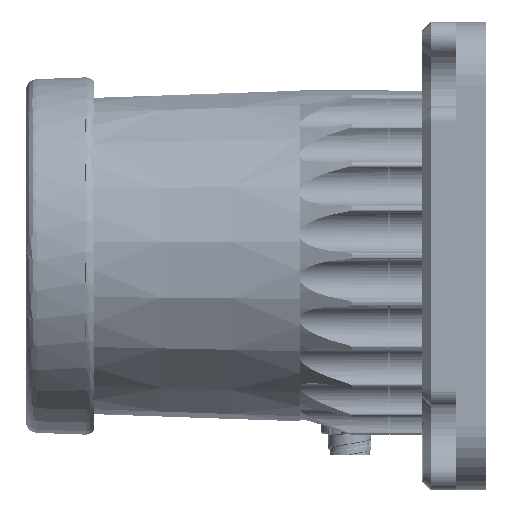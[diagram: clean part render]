
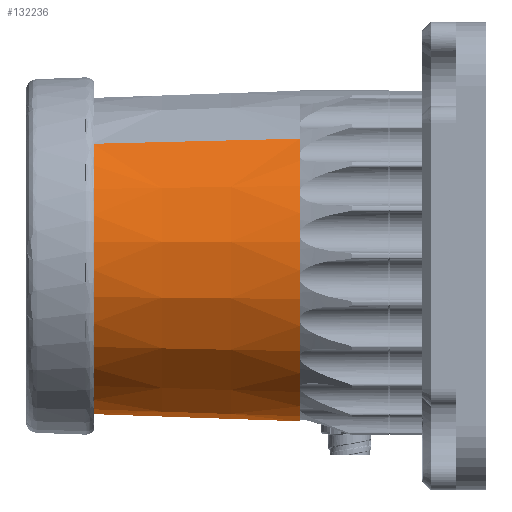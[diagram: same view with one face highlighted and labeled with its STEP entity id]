
A CAD part, left-side view. The second image highlights one B-rep face of the part: STEP entity #132236.
In plain terms, the highlighted conical face has half-angle 2 degrees and reference radius 38.991 mm.
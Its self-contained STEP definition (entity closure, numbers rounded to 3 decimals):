
#10919 = DIRECTION ( 'NONE',  ( 0., -1., 0. ) ) ;
#17183 = ORIENTED_EDGE ( 'NONE', *, *, #240669, .T. ) ;
#18463 = LINE ( 'NONE', #190466, #143896 ) ;
#23220 = DIRECTION ( 'NONE',  ( -0.707, 0., 0.707 ) ) ;
#25640 = DIRECTION ( 'NONE',  ( 0., 1., 0. ) ) ;
#28121 = FACE_OUTER_BOUND ( 'NONE', #194756, .T. ) ;
#29347 = DIRECTION ( 'NONE',  ( -0.707, 0., 0.707 ) ) ;
#31756 = CARTESIAN_POINT ( 'NONE',  ( 0., 21.565, 0. ) ) ;
#41181 = ORIENTED_EDGE ( 'NONE', *, *, #68759, .F. ) ;
#43433 = LINE ( 'NONE', #118420, #71105 ) ;
#45579 = DIRECTION ( 'NONE',  ( 0., -1., 0. ) ) ;
#45858 = CONICAL_SURFACE ( 'NONE', #116560, 38.991, 0.035 ) ;
#47880 = AXIS2_PLACEMENT_3D ( 'NONE', #83416, #25640, #23220 ) ;
#63012 = VERTEX_POINT ( 'NONE', #187183 ) ;
#67862 = CARTESIAN_POINT ( 'NONE',  ( 27.577, 21.315, -27.577 ) ) ;
#68759 = EDGE_CURVE ( 'NONE', #63012, #94372, #18463, .T. ) ;
#71105 = VECTOR ( 'NONE', #177424, 1000. ) ;
#83416 = CARTESIAN_POINT ( 'NONE',  ( 0., 21.315, 0. ) ) ;
#94372 = VERTEX_POINT ( 'NONE', #162343 ) ;
#96335 = CIRCLE ( 'NONE', #182678, 37.303 ) ;
#103104 = CARTESIAN_POINT ( 'NONE',  ( 26.377, 69.91, -26.377 ) ) ;
#116560 = AXIS2_PLACEMENT_3D ( 'NONE', #31756, #10919, #29347 ) ;
#118420 = CARTESIAN_POINT ( 'NONE',  ( 27.571, 21.565, -27.571 ) ) ;
#124326 = VERTEX_POINT ( 'NONE', #103104 ) ;
#132236 = ADVANCED_FACE ( 'NONE', ( #28121 ), #45858, .T. ) ;
#137338 = EDGE_CURVE ( 'NONE', #216469, #94372, #200884, .T. ) ;
#143896 = VECTOR ( 'NONE', #153618, 1000. ) ;
#153618 = DIRECTION ( 'NONE',  ( -0.025, -0.999, 0.025 ) ) ;
#153829 = DIRECTION ( 'NONE',  ( -0.707, 0., -0.707 ) ) ;
#154498 = EDGE_CURVE ( 'NONE', #63012, #124326, #96335, .T. ) ;
#155233 = ORIENTED_EDGE ( 'NONE', *, *, #137338, .T. ) ;
#162343 = CARTESIAN_POINT ( 'NONE',  ( -27.577, 21.315, 27.577 ) ) ;
#175916 = CARTESIAN_POINT ( 'NONE',  ( 0., 69.91, 0. ) ) ;
#177424 = DIRECTION ( 'NONE',  ( 0.025, -0.999, -0.025 ) ) ;
#182678 = AXIS2_PLACEMENT_3D ( 'NONE', #175916, #45579, #153829 ) ;
#187183 = CARTESIAN_POINT ( 'NONE',  ( -26.377, 69.91, 26.377 ) ) ;
#190466 = CARTESIAN_POINT ( 'NONE',  ( -27.571, 21.565, 27.571 ) ) ;
#194756 = EDGE_LOOP ( 'NONE', ( #200905, #17183, #155233, #41181 ) ) ;
#200884 = CIRCLE ( 'NONE', #47880, 39. ) ;
#200905 = ORIENTED_EDGE ( 'NONE', *, *, #154498, .T. ) ;
#216469 = VERTEX_POINT ( 'NONE', #67862 ) ;
#240669 = EDGE_CURVE ( 'NONE', #124326, #216469, #43433, .T. ) ;
